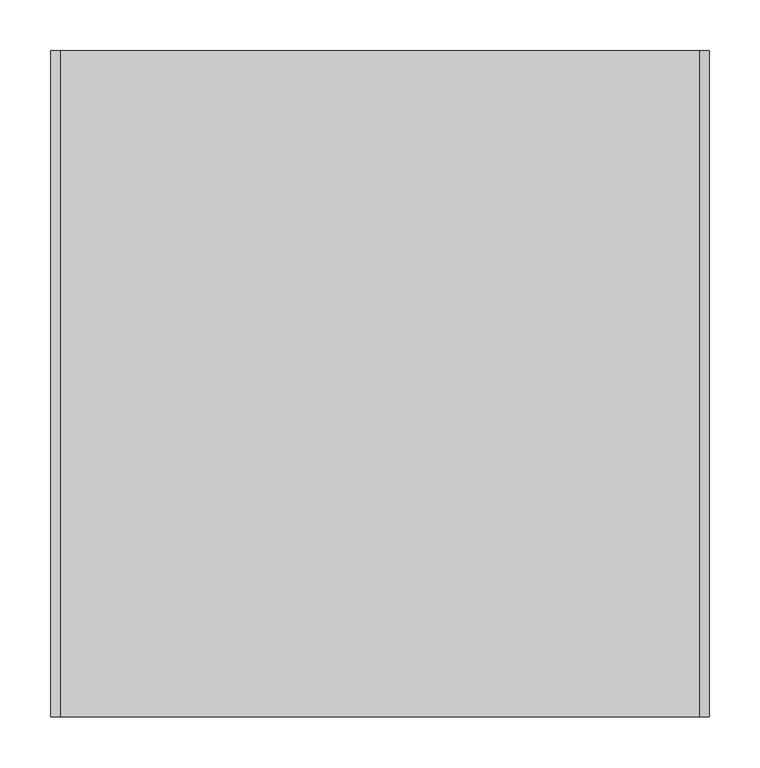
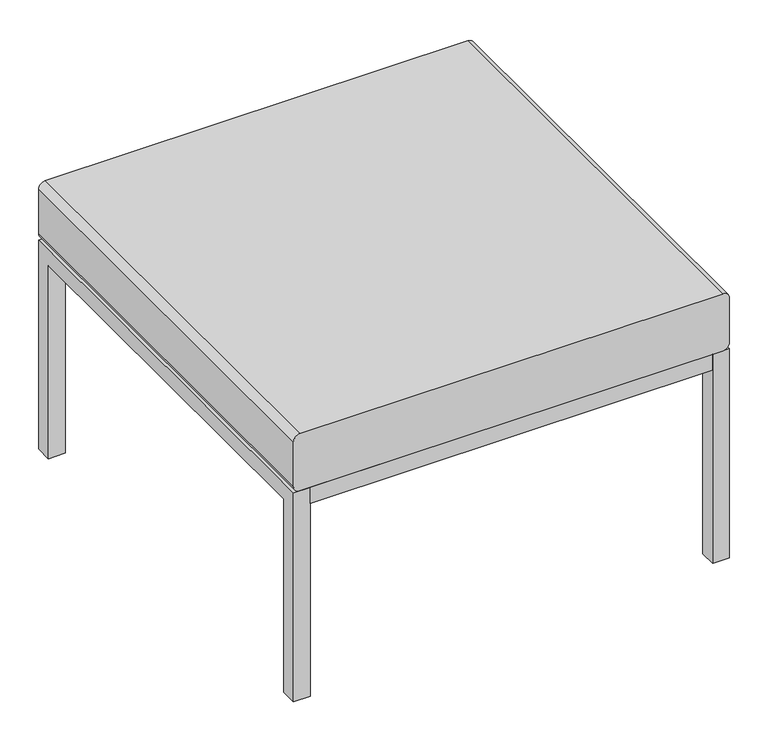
"""IFC4 building model written with IfcOpenShell, lengths in millimetres: furniture geometry, Sofá Modular - COLAB - SM 01 : Sofá Modular - COLAB - SM 01."""

from ifc_helpers import new_model, si_unit, point, frame, frame_2d, origin, place, context, project, spatial, polyline, circle_curve, trimmed, segment, composite_curve, outline, extrude, source, transform, mapped, element, save


def furniture_6dd9b92e(model_context):
    return source(origin(), model_context, "Body", "SweptSolid", [
        extrude(outline(polyline([(75.263, 583.029965), (25.0000002, 583.029965), (25.0000002, 633.0299654), (75.263, 633.0299654), (75.263, 583.029965)])), frame((0.0, 0.0, 324.9999997), z_axis=(0.0, 0.0, 1.0), x_axis=(1.0, 0.0, 0.0)), (0.0, 0.0, 1.0), 4.9999883),
        extrude(outline(polyline([(75.263, 75.0000004), (75.263, 25.0), (25.0000002, 25.0), (25.0000002, 75.0000004), (75.263, 75.0000004)])), frame((0.0, 0.0, 324.9999997), z_axis=(0.0, 0.0, 1.0), x_axis=(1.0, 0.0, 0.0)), (0.0, 0.0, 1.0), 4.9999883),
        extrude(outline(composite_curve([segment(polyline([(419.9999997, 640.0), (419.9999997, 10.0)]), True, "CONTINUOUS"), segment(trimmed(circle_curve(frame_2d((409.9999997, 10.0)), 10.0), [point((419.9999997, 10.0))], [point((409.9999997, 0.0))], False, "CARTESIAN"), True, "CONTINUOUS"), segment(polyline([(409.9999997, 0.0), (340.0000475, 0.0)]), True, "CONTINUOUS"), segment(trimmed(circle_curve(frame_2d((340.0000475, 10.0000596)), 10.0000596), [point((340.0000475, 0.0))], [point((329.999988, 10.0000596))], False, "CARTESIAN"), True, "CONTINUOUS"), segment(polyline([(329.999988, 10.0000596), (329.999988, 639.9999927)]), True, "CONTINUOUS"), segment(trimmed(circle_curve(frame_2d((340.0000003, 639.9999927)), 10.0000123), [point((329.999988, 639.9999927))], [point((340.0000003, 650.000005))], False, "CARTESIAN"), True, "CONTINUOUS"), segment(polyline([(340.0000003, 650.000005), (409.9999948, 650.000005)]), True, "CONTINUOUS"), segment(trimmed(circle_curve(frame_2d((409.9999948, 640.0)), 10.000005), [point((409.9999948, 650.000005))], [point((419.9999997, 640.0))], False, "CARTESIAN"), True, "CONTINUOUS")], self_intersect=False)), frame((0.0, 0.0, 0.0), z_axis=(0.0, 1.0, 0.0), x_axis=(0.0, 0.0, 1.0)), (0.0, 0.0, 1.0), 658.0299654),
        extrude(outline(polyline([(574.737005, 583.029965), (574.737005, 633.0299654), (625.0000048, 633.0299654), (625.0000048, 583.029965), (574.737005, 583.029965)])), frame((0.0, 0.0, 324.9999997), z_axis=(0.0, 0.0, 1.0), x_axis=(1.0, 0.0, 0.0)), (0.0, 0.0, 1.0), 4.9999883),
        extrude(outline(polyline([(574.737005, 75.0000004), (625.0000048, 75.0000004), (625.0000048, 25.0), (574.737005, 25.0), (574.737005, 75.0000004)])), frame((0.0, 0.0, 324.9999997), z_axis=(0.0, 0.0, 1.0), x_axis=(1.0, 0.0, 0.0)), (0.0, 0.0, 1.0), 4.9999883),
        extrude(outline(polyline([(312.5000025, 25.0), (312.5000025, 633.0299654), (337.5000025, 633.0299654), (337.5000025, 25.0), (312.5000025, 25.0)])), frame((0.0, 0.0, 304.9999878), z_axis=(0.0, 0.0, 1.0), x_axis=(1.0, 0.0, 0.0)), (0.0, 0.0, 1.0), 25.0000002),
        extrude(outline(polyline([(625.0000048, 0.0), (25.0000002, 0.0), (25.0000002, 25.0), (625.0000048, 25.0), (625.0000048, 0.0)])), frame((0.0, 0.0, 304.9999878), z_axis=(0.0, 0.0, 1.0), x_axis=(1.0, 0.0, 0.0)), (0.0, 0.0, 1.0), 25.0000002),
        extrude(outline(polyline([(25.0, 0.0), (0.0, 0.0), (0.0, 329.999988), (658.0299654, 329.999988), (658.0299654, 0.0), (633.0299654, 0.0), (633.0299654, 304.9999878), (25.0, 304.9999878), (25.0, 0.0)])), frame((625.0000048, 0.0, 0.0), z_axis=(1.0, 0.0, 0.0), x_axis=(0.0, 1.0, 0.0)), (0.0, 0.0, 1.0), 25.0000002),
        extrude(outline(polyline([(25.0000002, 658.0299654), (625.0000048, 658.0299654), (625.0000048, 633.0299654), (25.0000002, 633.0299654), (25.0000002, 658.0299654)])), frame((0.0, 0.0, 304.9999878), z_axis=(0.0, 0.0, 1.0), x_axis=(1.0, 0.0, 0.0)), (0.0, 0.0, 1.0), 25.0000002),
        extrude(outline(polyline([(25.0, 0.0), (0.0, 0.0), (0.0, 329.999988), (658.0299654, 329.999988), (658.0299654, 0.0), (633.0299654, 0.0), (633.0299654, 304.9999878), (25.0, 304.9999878), (25.0, 0.0)])), frame((0.0, 0.0, 0.0), z_axis=(1.0, 0.0, 0.0), x_axis=(0.0, 1.0, 0.0)), (0.0, 0.0, 1.0), 25.0000002),
    ])


if __name__ == "__main__":
    model = new_model("IFC4")
    model_context = context("Model", 3, world=origin())
    ifc_project = project(units=[si_unit("LENGTHUNIT", "METRE", prefix="MILLI")], contexts=[model_context])
    site = spatial("IfcSite", under=ifc_project)
    building = spatial("IfcBuilding", under=site)
    placement = place(None, origin())
    furniture_shape = furniture_6dd9b92e(model_context)
    element("IfcFurniture", 1, ObjectType="Sofá Modular - COLAB - SM 01 : Sofá Modular - COLAB - SM 01", at=placement, inside=building, context=model_context, shape_type="MappedRepresentation", body=[
        mapped(furniture_shape, transform((0.0, 0.0, 0.0), x_axis=(1.0, 0.0, 0.0), y_axis=(0.0, 1.0, 0.0), z_axis=(0.0, 0.0, 1.0))),
    ])
    save(model, "model.ifc")
